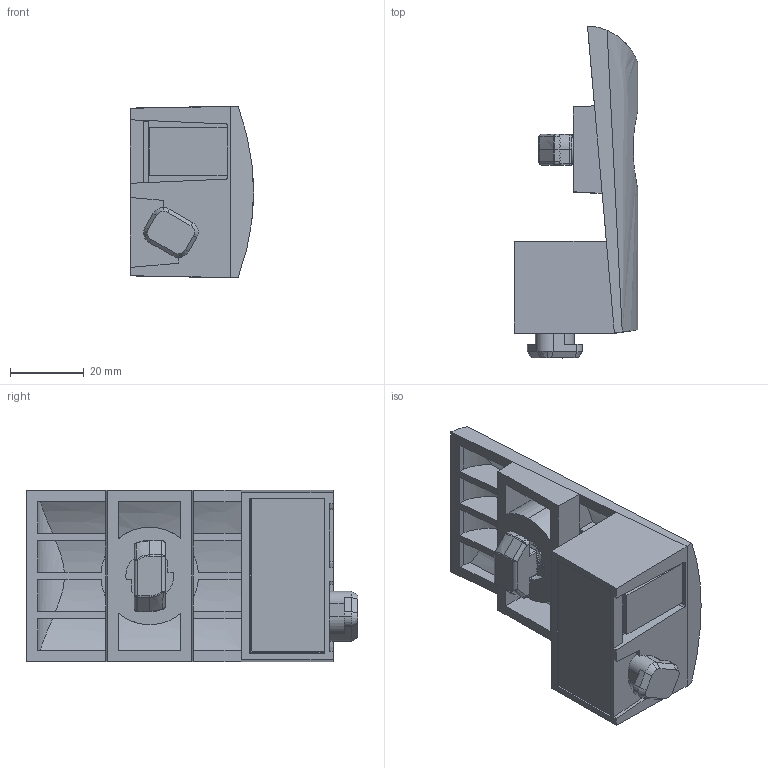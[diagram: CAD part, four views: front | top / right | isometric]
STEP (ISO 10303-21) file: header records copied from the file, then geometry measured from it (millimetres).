
FILE_DESCRIPTION (( 'STEP AP214' ), '1' );
FILE_NAME ('067RCB1BRU003.STEP', '2024-09-23T11:25:26', ( '' ), ( '' ), 'SwSTEP 2.0', 'SolidWorks 2023', '' );
FILE_SCHEMA (( 'AUTOMOTIVE_DESIGN' ));
Length unit declared in the file: millimetre
Products named in the file (9): 067RCB1CCS002_1; 067RCB1BRU003(1); 067RCB1CCS002; 096HK1030M0820; 067RCB1BRU003(2); 4DIN125AM8M; 067RCB1BRS003; 067RCB1BRU003; 4DIN934M08MS01
Assembly tree (8 placements, depth 4):
  067RCB1BRU003
    067RCB1BRU003(2)
      067RCB1BRU003(1)
        067RCB1BRS003
        067RCB1CCS002
        4DIN125AM8M
        096HK1030M0820
        4DIN934M08MS01
      067RCB1CCS002_1
Bounding box: 33.5 x 90.2 x 46.5 mm (x, y, z)
Volume: 39610.7 mm3; surface area: 27986.4 mm2
Topology: 6 solids, 6 shells, 371 faces, 947 edges, 575 vertices
Faces by surface type: plane 182, cylinder 104, bspline 51, cone 26, sphere 8
Entity records: 16498 total; most frequent: CARTESIAN_POINT 8065, ORIENTED_EDGE 1858, DIRECTION 1506, EDGE_CURVE 929, VERTEX_POINT 575, LINE 502, VECTOR 502, AXIS2_PLACEMENT_3D 502
